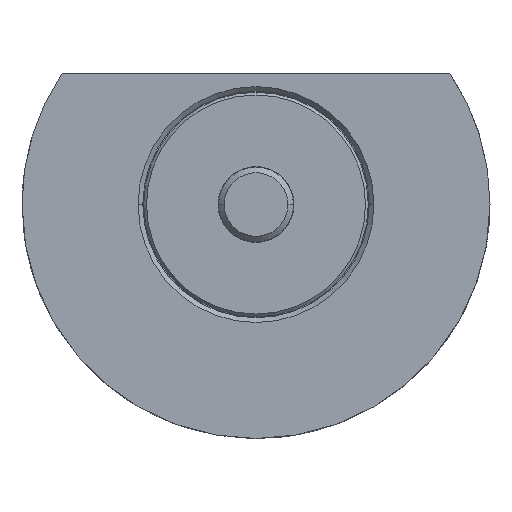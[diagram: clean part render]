
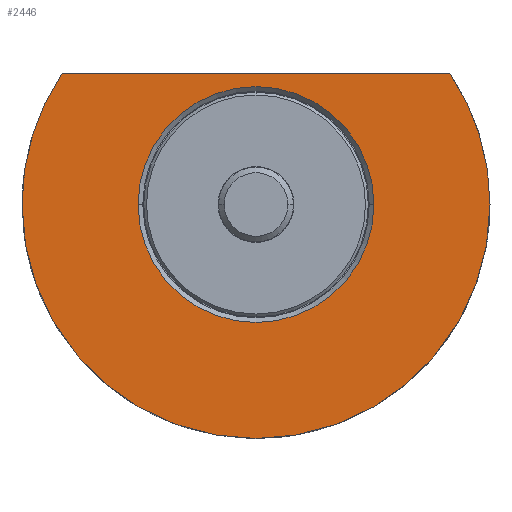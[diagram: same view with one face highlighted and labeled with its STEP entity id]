
A CAD part, front view. The second image highlights one B-rep face of the part: STEP entity #2446.
In plain terms, the highlighted planar face has unit normal (0, -1, 0).
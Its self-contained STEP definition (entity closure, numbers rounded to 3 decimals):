
#12 = ORIENTED_EDGE ( 'NONE', *, *, #540, .T. ) ;
#33 = DIRECTION ( 'NONE',  ( 0., 1., 0. ) ) ;
#85 = CARTESIAN_POINT ( 'NONE',  ( 0., -12., 0. ) ) ;
#91 = ORIENTED_EDGE ( 'NONE', *, *, #1438, .F. ) ;
#114 = FACE_BOUND ( 'NONE', #1911, .T. ) ;
#232 = CIRCLE ( 'NONE', #1474, 25. ) ;
#280 = CARTESIAN_POINT ( 'NONE',  ( -12.6, -12., 14. ) ) ;
#296 = VERTEX_POINT ( 'NONE', #1319 ) ;
#349 = DIRECTION ( 'NONE',  ( -1., 0., 0. ) ) ;
#365 = EDGE_CURVE ( 'NONE', #1890, #1817, #1431, .T. ) ;
#391 = CIRCLE ( 'NONE', #1227, 12.6 ) ;
#455 = CARTESIAN_POINT ( 'NONE',  ( 0., -12., 0. ) ) ;
#473 = DIRECTION ( 'NONE',  ( 0., 1., 0. ) ) ;
#476 = AXIS2_PLACEMENT_3D ( 'NONE', #85, #579, #2341 ) ;
#538 = CARTESIAN_POINT ( 'NONE',  ( -25., -12., 0. ) ) ;
#540 = EDGE_CURVE ( 'NONE', #296, #1491, #391, .T. ) ;
#579 = DIRECTION ( 'NONE',  ( 0., 1., 0. ) ) ;
#645 = AXIS2_PLACEMENT_3D ( 'NONE', #1049, #473, #1040 ) ;
#710 = DIRECTION ( 'NONE',  ( 0., -1., 0. ) ) ;
#752 = ORIENTED_EDGE ( 'NONE', *, *, #883, .T. ) ;
#774 = DIRECTION ( 'NONE',  ( 0., 1., 0. ) ) ;
#827 = DIRECTION ( 'NONE',  ( -1., 0., 0. ) ) ;
#883 = EDGE_CURVE ( 'NONE', #1491, #296, #982, .T. ) ;
#885 = DIRECTION ( 'NONE',  ( -1., 0., 0. ) ) ;
#907 = FACE_OUTER_BOUND ( 'NONE', #988, .T. ) ;
#948 = ORIENTED_EDGE ( 'NONE', *, *, #2329, .F. ) ;
#982 = CIRCLE ( 'NONE', #2177, 12.6 ) ;
#988 = EDGE_LOOP ( 'NONE', ( #1686, #2246, #948, #91 ) ) ;
#1040 = DIRECTION ( 'NONE',  ( -1., 0., 0. ) ) ;
#1049 = CARTESIAN_POINT ( 'NONE',  ( 0., -12., 0. ) ) ;
#1058 = DIRECTION ( 'NONE',  ( -1., 0., 0. ) ) ;
#1081 = DIRECTION ( 'NONE',  ( 0., 1., 0. ) ) ;
#1227 = AXIS2_PLACEMENT_3D ( 'NONE', #455, #1081, #1058 ) ;
#1319 = CARTESIAN_POINT ( 'NONE',  ( -12.6, -12., 0. ) ) ;
#1331 = AXIS2_PLACEMENT_3D ( 'NONE', #1897, #710, #1498 ) ;
#1340 = CARTESIAN_POINT ( 'NONE',  ( 0., -12., 0. ) ) ;
#1356 = CARTESIAN_POINT ( 'NONE',  ( 12.6, -12., 0. ) ) ;
#1431 = CIRCLE ( 'NONE', #476, 25. ) ;
#1438 = EDGE_CURVE ( 'NONE', #1817, #2082, #232, .T. ) ;
#1474 = AXIS2_PLACEMENT_3D ( 'NONE', #1340, #774, #349 ) ;
#1491 = VERTEX_POINT ( 'NONE', #1356 ) ;
#1498 = DIRECTION ( 'NONE',  ( 1., 0., 0. ) ) ;
#1502 = VERTEX_POINT ( 'NONE', #2141 ) ;
#1519 = CARTESIAN_POINT ( 'NONE',  ( 20.712, -12., 14. ) ) ;
#1686 = ORIENTED_EDGE ( 'NONE', *, *, #365, .F. ) ;
#1690 = PLANE ( 'NONE',  #1331 ) ;
#1706 = CARTESIAN_POINT ( 'NONE',  ( 25., -12., 0. ) ) ;
#1759 = CIRCLE ( 'NONE', #645, 25. ) ;
#1806 = CARTESIAN_POINT ( 'NONE',  ( 0., -12., 0. ) ) ;
#1817 = VERTEX_POINT ( 'NONE', #1706 ) ;
#1890 = VERTEX_POINT ( 'NONE', #1519 ) ;
#1897 = CARTESIAN_POINT ( 'NONE',  ( -12.6, -12., 0. ) ) ;
#1911 = EDGE_LOOP ( 'NONE', ( #752, #12 ) ) ;
#2031 = EDGE_CURVE ( 'NONE', #1890, #1502, #2057, .T. ) ;
#2057 = LINE ( 'NONE', #280, #2464 ) ;
#2082 = VERTEX_POINT ( 'NONE', #538 ) ;
#2141 = CARTESIAN_POINT ( 'NONE',  ( -20.712, -12., 14. ) ) ;
#2177 = AXIS2_PLACEMENT_3D ( 'NONE', #1806, #33, #827 ) ;
#2246 = ORIENTED_EDGE ( 'NONE', *, *, #2031, .T. ) ;
#2329 = EDGE_CURVE ( 'NONE', #2082, #1502, #1759, .T. ) ;
#2341 = DIRECTION ( 'NONE',  ( -1., 0., 0. ) ) ;
#2446 = ADVANCED_FACE ( 'NONE', ( #114, #907 ), #1690, .T. ) ;
#2464 = VECTOR ( 'NONE', #885, 1000. ) ;
